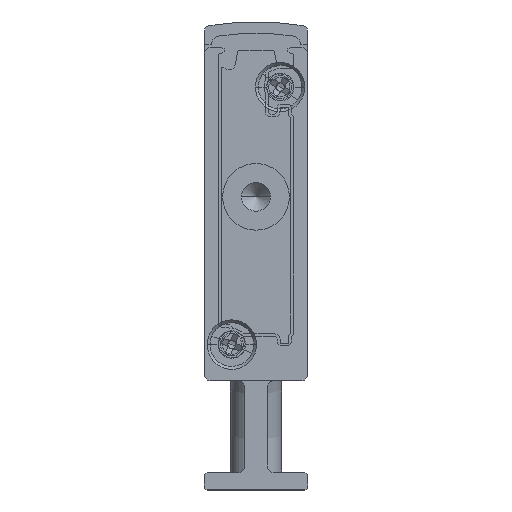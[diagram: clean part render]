
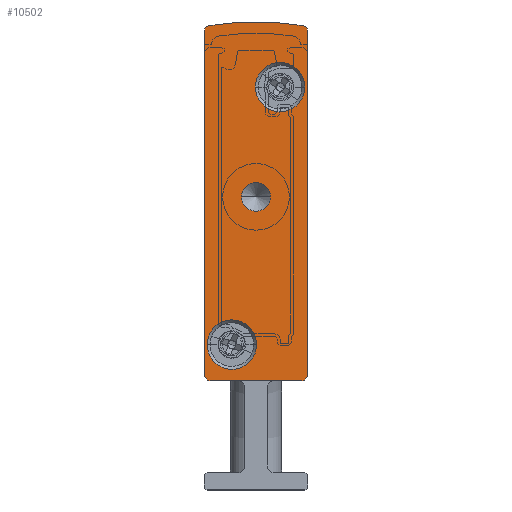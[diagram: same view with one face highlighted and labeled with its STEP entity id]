
A CAD part, front view. The second image highlights one B-rep face of the part: STEP entity #10502.
In plain terms, the highlighted planar face has unit normal (0, -1, 0).
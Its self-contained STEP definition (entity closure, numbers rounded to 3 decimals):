
#168 = DIRECTION ( 'NONE',  ( 1., 0., 0. ) ) ;
#363 = DIRECTION ( 'NONE',  ( -1., 0., 0. ) ) ;
#493 = CARTESIAN_POINT ( 'NONE',  ( 9., -2.5, 39.902 ) ) ;
#557 = CIRCLE ( 'NONE', #3925, 0.5 ) ;
#638 = VERTEX_POINT ( 'NONE', #14885 ) ;
#796 = CARTESIAN_POINT ( 'NONE',  ( 0.5, -2.5, 39.902 ) ) ;
#865 = ORIENTED_EDGE ( 'NONE', *, *, #1076, .F. ) ;
#1076 = EDGE_CURVE ( 'NONE', #8769, #15910, #15825, .T. ) ;
#1152 = DIRECTION ( 'NONE',  ( -1., 0., 0. ) ) ;
#1228 = VECTOR ( 'NONE', #9613, 1000. ) ;
#1338 = EDGE_CURVE ( 'NONE', #8656, #11294, #15569, .T. ) ;
#1430 = CIRCLE ( 'NONE', #3398, 0.5 ) ;
#1548 = CIRCLE ( 'NONE', #8856, 2.15 ) ;
#1576 = CARTESIAN_POINT ( 'NONE',  ( 9., -2.5, 39.902 ) ) ;
#1602 = DIRECTION ( 'NONE',  ( -1., 0., 0. ) ) ;
#1634 = ORIENTED_EDGE ( 'NONE', *, *, #10948, .F. ) ;
#1635 = EDGE_LOOP ( 'NONE', ( #13501, #1634 ) ) ;
#1796 = CIRCLE ( 'NONE', #4881, 2.15 ) ;
#1805 = AXIS2_PLACEMENT_3D ( 'NONE', #15572, #12323, #6450 ) ;
#1853 = DIRECTION ( 'NONE',  ( 1., 0., 0. ) ) ;
#1866 = CARTESIAN_POINT ( 'NONE',  ( 4.5, -2.5, 25.5 ) ) ;
#1942 = DIRECTION ( 'NONE',  ( 0., 1., 0. ) ) ;
#2386 = EDGE_CURVE ( 'NONE', #638, #14392, #3127, .T. ) ;
#2813 = ORIENTED_EDGE ( 'NONE', *, *, #8096, .T. ) ;
#3120 = VERTEX_POINT ( 'NONE', #13758 ) ;
#3127 = LINE ( 'NONE', #4527, #7823 ) ;
#3292 = CARTESIAN_POINT ( 'NONE',  ( 6.6, -2.5, 35.05 ) ) ;
#3311 = CARTESIAN_POINT ( 'NONE',  ( 4.5, -2.5, 25.5 ) ) ;
#3398 = AXIS2_PLACEMENT_3D ( 'NONE', #9898, #8419, #14523 ) ;
#3795 = ORIENTED_EDGE ( 'NONE', *, *, #1338, .F. ) ;
#3896 = VERTEX_POINT ( 'NONE', #14520 ) ;
#3925 = AXIS2_PLACEMENT_3D ( 'NONE', #11162, #17078, #363 ) ;
#3963 = ORIENTED_EDGE ( 'NONE', *, *, #11888, .F. ) ;
#4182 = DIRECTION ( 'NONE',  ( 0., 1., 0. ) ) ;
#4384 = VERTEX_POINT ( 'NONE', #5210 ) ;
#4527 = CARTESIAN_POINT ( 'NONE',  ( 0.5, -2.5, 9.5 ) ) ;
#4604 = CARTESIAN_POINT ( 'NONE',  ( 0.5, -2.5, 9.5 ) ) ;
#4691 = VERTEX_POINT ( 'NONE', #16705 ) ;
#4850 = CARTESIAN_POINT ( 'NONE',  ( 0., -2.5, 39.902 ) ) ;
#4881 = AXIS2_PLACEMENT_3D ( 'NONE', #13180, #5650, #11770 ) ;
#4942 = CARTESIAN_POINT ( 'NONE',  ( 0., -2.5, 39.902 ) ) ;
#5163 = CARTESIAN_POINT ( 'NONE',  ( 2.4, -2.5, 12.65 ) ) ;
#5183 = ORIENTED_EDGE ( 'NONE', *, *, #5354, .F. ) ;
#5210 = CARTESIAN_POINT ( 'NONE',  ( 0., -2.5, 10. ) ) ;
#5213 = CARTESIAN_POINT ( 'NONE',  ( 2.4, -2.5, 12.65 ) ) ;
#5223 = DIRECTION ( 'NONE',  ( 0., 1., 0. ) ) ;
#5354 = EDGE_CURVE ( 'NONE', #17888, #638, #1430, .T. ) ;
#5374 = CARTESIAN_POINT ( 'NONE',  ( 8.75, -2.5, 35.05 ) ) ;
#5650 = DIRECTION ( 'NONE',  ( 0., -1., 0. ) ) ;
#6047 = DIRECTION ( 'NONE',  ( -1., 0., 0. ) ) ;
#6340 = CIRCLE ( 'NONE', #9675, 1.25 ) ;
#6383 = CARTESIAN_POINT ( 'NONE',  ( 9., -2.5, 10. ) ) ;
#6450 = DIRECTION ( 'NONE',  ( -1., 0., 0. ) ) ;
#6507 = VERTEX_POINT ( 'NONE', #19115 ) ;
#6798 = VERTEX_POINT ( 'NONE', #5374 ) ;
#6883 = EDGE_LOOP ( 'NONE', ( #865, #7901, #13953, #9649, #5183, #9634, #14535, #3963 ) ) ;
#7085 = FACE_BOUND ( 'NONE', #8539, .T. ) ;
#7494 = CIRCLE ( 'NONE', #1805, 0.5 ) ;
#7613 = AXIS2_PLACEMENT_3D ( 'NONE', #796, #5223, #16054 ) ;
#7823 = VECTOR ( 'NONE', #6047, 1000. ) ;
#7880 = LINE ( 'NONE', #4942, #18787 ) ;
#7883 = EDGE_LOOP ( 'NONE', ( #3795, #8000 ) ) ;
#7901 = ORIENTED_EDGE ( 'NONE', *, *, #9808, .F. ) ;
#8000 = ORIENTED_EDGE ( 'NONE', *, *, #15068, .F. ) ;
#8096 = EDGE_CURVE ( 'NONE', #3896, #6507, #6340, .T. ) ;
#8186 = DIRECTION ( 'NONE',  ( 0., -1., 0. ) ) ;
#8419 = DIRECTION ( 'NONE',  ( 0., 1., 0. ) ) ;
#8539 = EDGE_LOOP ( 'NONE', ( #14015, #2813 ) ) ;
#8656 = VERTEX_POINT ( 'NONE', #19660 ) ;
#8769 = VERTEX_POINT ( 'NONE', #4850 ) ;
#8856 = AXIS2_PLACEMENT_3D ( 'NONE', #5163, #18894, #12759 ) ;
#8902 = AXIS2_PLACEMENT_3D ( 'NONE', #5213, #8186, #1853 ) ;
#9473 = FACE_OUTER_BOUND ( 'NONE', #6883, .T. ) ;
#9613 = DIRECTION ( 'NONE',  ( 0., 0., -1. ) ) ;
#9634 = ORIENTED_EDGE ( 'NONE', *, *, #11748, .F. ) ;
#9649 = ORIENTED_EDGE ( 'NONE', *, *, #2386, .F. ) ;
#9675 = AXIS2_PLACEMENT_3D ( 'NONE', #3311, #13874, #1602 ) ;
#9710 = AXIS2_PLACEMENT_3D ( 'NONE', #1866, #1942, #12676 ) ;
#9796 = AXIS2_PLACEMENT_3D ( 'NONE', #17915, #4182, #1152 ) ;
#9808 = EDGE_CURVE ( 'NONE', #4384, #8769, #7880, .T. ) ;
#9898 = CARTESIAN_POINT ( 'NONE',  ( 8.5, -2.5, 10. ) ) ;
#10502 = ADVANCED_FACE ( 'NONE', ( #16398, #18707, #9473, #7085 ), #10733, .F. ) ;
#10733 = PLANE ( 'NONE',  #10828 ) ;
#10828 = AXIS2_PLACEMENT_3D ( 'NONE', #13618, #19683, #17037 ) ;
#10948 = EDGE_CURVE ( 'NONE', #3120, #6798, #15987, .T. ) ;
#11162 = CARTESIAN_POINT ( 'NONE',  ( 0.5, -2.5, 10. ) ) ;
#11294 = VERTEX_POINT ( 'NONE', #19255 ) ;
#11748 = EDGE_CURVE ( 'NONE', #17816, #17888, #19472, .T. ) ;
#11770 = DIRECTION ( 'NONE',  ( 1., 0., 0. ) ) ;
#11888 = EDGE_CURVE ( 'NONE', #15910, #4691, #14299, .T. ) ;
#12323 = DIRECTION ( 'NONE',  ( 0., 1., 0. ) ) ;
#12628 = CARTESIAN_POINT ( 'NONE',  ( 0.408, -2.5, 40.393 ) ) ;
#12676 = DIRECTION ( 'NONE',  ( -1., 0., 0. ) ) ;
#12759 = DIRECTION ( 'NONE',  ( 1., 0., 0. ) ) ;
#12910 = EDGE_CURVE ( 'NONE', #4691, #17816, #7494, .T. ) ;
#13180 = CARTESIAN_POINT ( 'NONE',  ( 6.6, -2.5, 35.05 ) ) ;
#13501 = ORIENTED_EDGE ( 'NONE', *, *, #17139, .F. ) ;
#13618 = CARTESIAN_POINT ( 'NONE',  ( 0.5, -2.5, 39.902 ) ) ;
#13758 = CARTESIAN_POINT ( 'NONE',  ( 4.45, -2.5, 35.05 ) ) ;
#13874 = DIRECTION ( 'NONE',  ( 0., 1., 0. ) ) ;
#13897 = EDGE_CURVE ( 'NONE', #6507, #3896, #13984, .T. ) ;
#13953 = ORIENTED_EDGE ( 'NONE', *, *, #17861, .F. ) ;
#13984 = CIRCLE ( 'NONE', #9710, 1.25 ) ;
#14015 = ORIENTED_EDGE ( 'NONE', *, *, #13897, .T. ) ;
#14075 = AXIS2_PLACEMENT_3D ( 'NONE', #3292, #15374, #168 ) ;
#14149 = DIRECTION ( 'NONE',  ( 0., 0., 1. ) ) ;
#14299 = CIRCLE ( 'NONE', #9796, 23.658 ) ;
#14392 = VERTEX_POINT ( 'NONE', #4604 ) ;
#14520 = CARTESIAN_POINT ( 'NONE',  ( 5.75, -2.5, 25.5 ) ) ;
#14523 = DIRECTION ( 'NONE',  ( -1., 0., 0. ) ) ;
#14535 = ORIENTED_EDGE ( 'NONE', *, *, #12910, .F. ) ;
#14885 = CARTESIAN_POINT ( 'NONE',  ( 8.5, -2.5, 9.5 ) ) ;
#15068 = EDGE_CURVE ( 'NONE', #11294, #8656, #1548, .T. ) ;
#15374 = DIRECTION ( 'NONE',  ( 0., -1., 0. ) ) ;
#15569 = CIRCLE ( 'NONE', #8902, 2.15 ) ;
#15572 = CARTESIAN_POINT ( 'NONE',  ( 8.5, -2.5, 39.902 ) ) ;
#15825 = CIRCLE ( 'NONE', #7613, 0.5 ) ;
#15910 = VERTEX_POINT ( 'NONE', #12628 ) ;
#15987 = CIRCLE ( 'NONE', #14075, 2.15 ) ;
#16054 = DIRECTION ( 'NONE',  ( -1., 0., 0. ) ) ;
#16398 = FACE_BOUND ( 'NONE', #1635, .T. ) ;
#16705 = CARTESIAN_POINT ( 'NONE',  ( 8.592, -2.5, 40.393 ) ) ;
#17037 = DIRECTION ( 'NONE',  ( -1., 0., 0. ) ) ;
#17078 = DIRECTION ( 'NONE',  ( 0., 1., 0. ) ) ;
#17139 = EDGE_CURVE ( 'NONE', #6798, #3120, #1796, .T. ) ;
#17816 = VERTEX_POINT ( 'NONE', #1576 ) ;
#17861 = EDGE_CURVE ( 'NONE', #14392, #4384, #557, .T. ) ;
#17888 = VERTEX_POINT ( 'NONE', #6383 ) ;
#17915 = CARTESIAN_POINT ( 'NONE',  ( 4.5, -2.5, 17.092 ) ) ;
#18707 = FACE_BOUND ( 'NONE', #7883, .T. ) ;
#18787 = VECTOR ( 'NONE', #14149, 1000. ) ;
#18894 = DIRECTION ( 'NONE',  ( 0., -1., 0. ) ) ;
#19115 = CARTESIAN_POINT ( 'NONE',  ( 3.25, -2.5, 25.5 ) ) ;
#19255 = CARTESIAN_POINT ( 'NONE',  ( 0.25, -2.5, 12.65 ) ) ;
#19472 = LINE ( 'NONE', #493, #1228 ) ;
#19660 = CARTESIAN_POINT ( 'NONE',  ( 4.55, -2.5, 12.65 ) ) ;
#19683 = DIRECTION ( 'NONE',  ( 0., 1., 0. ) ) ;
